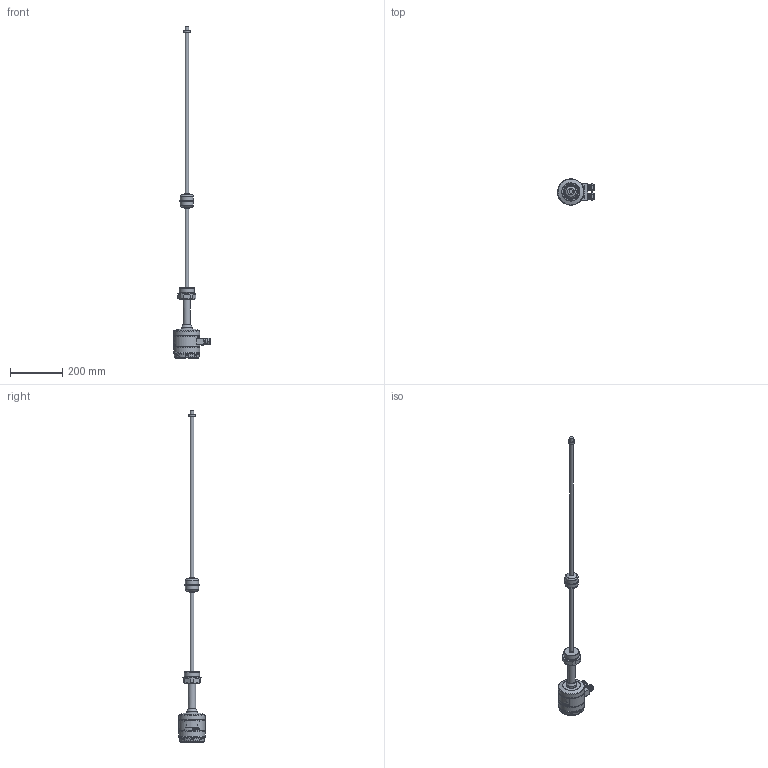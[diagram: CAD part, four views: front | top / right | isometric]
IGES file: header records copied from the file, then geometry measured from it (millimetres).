
Global section: file name: M_X ház_Aszer_2col,; native system: Autodesk Inventor 2015; preprocessor: unknown; author: aantal; date: 20150713.095728; units: millimetre
Bounding box: 141.47 x 100.54 x 1272 mm (x, y, z)
Volume: 1319532.8 mm3; surface area: 163196.4 mm2
Topology: 13 solids, 13 shells, 441 faces, 1104 edges, 722 vertices
Faces by surface type: bspline 441
